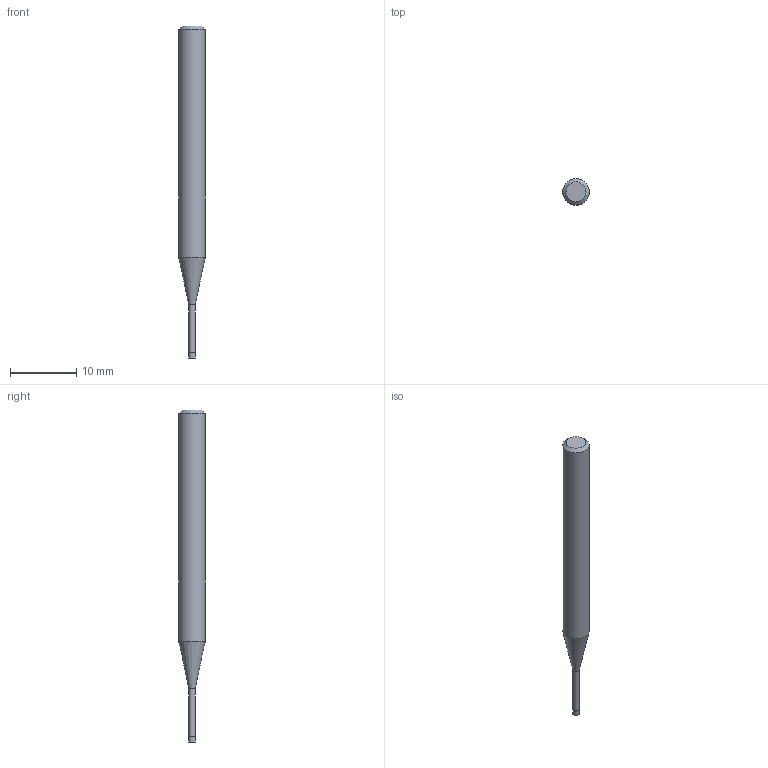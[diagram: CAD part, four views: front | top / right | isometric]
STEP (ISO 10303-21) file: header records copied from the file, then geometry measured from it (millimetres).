
FILE_DESCRIPTION((''),'2;1');
FILE_NAME('C:\Users\nsx150\AppData\Local\Temp\Mastercam 2021\3SYKECWX22\TEMP.step','2021-04-22T09:38:50',(''),(''),'STEP Write','Mastercam 2021 ... CNC Software, Inc.','');
FILE_SCHEMA(('AUTOMOTIVE_DESIGN'));
Length unit declared in the file: millimetre
Products named in the file (1): None
Bounding box: 4 x 4 x 50 mm (x, y, z)
Volume: 480.8 mm3; surface area: 529.5 mm2
Topology: 2 solids, 2 shells, 9 faces, 12 edges, 7 vertices
Faces by surface type: plane 4, cylinder 3, cone 2
Full cylindrical faces by diameter (mm): 0.95 x1, 1 x1, 4 x1
Entity records: 211 total; most frequent: DIRECTION 36, CARTESIAN_POINT 25, AXIS2_PLACEMENT_3D 18, ORIENTED_EDGE 14, EDGE_LOOP 14, STYLED_ITEM 12, ADVANCED_FACE 9, FACE_BOUND 8
